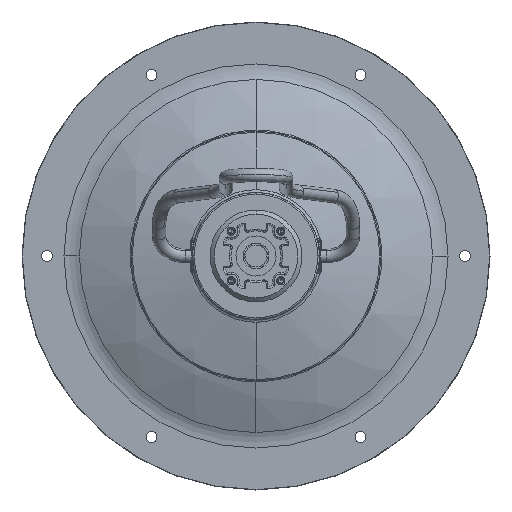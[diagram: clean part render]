
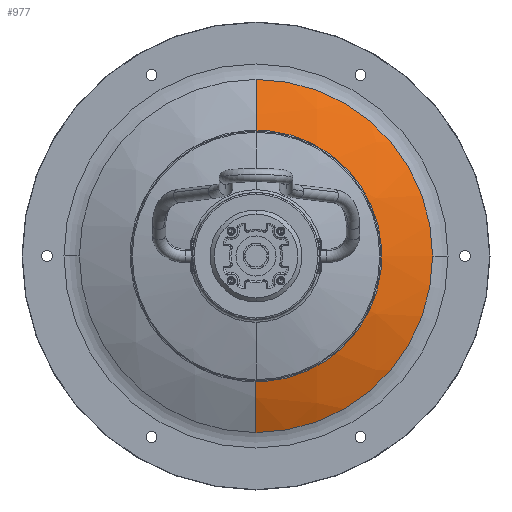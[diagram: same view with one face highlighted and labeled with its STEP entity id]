
A CAD part, front view. The second image highlights one B-rep face of the part: STEP entity #977.
In plain terms, the highlighted spherical face has radius 229 mm.
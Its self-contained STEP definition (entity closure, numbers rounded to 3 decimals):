
#384 = VERTEX_POINT ( 'NONE', #27801 ) ;
#527 = CIRCLE ( 'NONE', #4006, 40.352 ) ;
#794 = FACE_OUTER_BOUND ( 'NONE', #27525, .T. ) ;
#977 = ADVANCED_FACE ( 'NONE', ( #794 ), #18574, .T. ) ;
#995 = DIRECTION ( 'NONE',  ( 0., 0., -1. ) ) ;
#1651 = ORIENTED_EDGE ( 'NONE', *, *, #27460, .T. ) ;
#1808 = EDGE_CURVE ( 'NONE', #33135, #35547, #5233, .T. ) ;
#2389 = CARTESIAN_POINT ( 'NONE',  ( 105.65, -4.256, 0. ) ) ;
#3197 = CARTESIAN_POINT ( 'NONE',  ( 0., -26.5, -40.352 ) ) ;
#3296 = DIRECTION ( 'NONE',  ( 0., 0., -1. ) ) ;
#4006 = AXIS2_PLACEMENT_3D ( 'NONE', #26650, #22439, #8765 ) ;
#4284 = CARTESIAN_POINT ( 'NONE',  ( -40.352, -26.5, 0. ) ) ;
#4788 = CARTESIAN_POINT ( 'NONE',  ( 0., 198.917, 0. ) ) ;
#5233 = CIRCLE ( 'NONE', #29347, 229. ) ;
#5774 = AXIS2_PLACEMENT_3D ( 'NONE', #4788, #7304, #29601 ) ;
#6910 = ORIENTED_EDGE ( 'NONE', *, *, #35225, .F. ) ;
#7304 = DIRECTION ( 'NONE',  ( 0., 0., -1. ) ) ;
#8765 = DIRECTION ( 'NONE',  ( 0., 0., -1. ) ) ;
#11137 = CIRCLE ( 'NONE', #15163, 40.352 ) ;
#12131 = VERTEX_POINT ( 'NONE', #3197 ) ;
#13536 = CIRCLE ( 'NONE', #33698, 105.65 ) ;
#13716 = ORIENTED_EDGE ( 'NONE', *, *, #1808, .F. ) ;
#13848 = CARTESIAN_POINT ( 'NONE',  ( 0., -26.5, 0. ) ) ;
#15098 = AXIS2_PLACEMENT_3D ( 'NONE', #25371, #33669, #28079 ) ;
#15163 = AXIS2_PLACEMENT_3D ( 'NONE', #13848, #24855, #3296 ) ;
#15485 = DIRECTION ( 'NONE',  ( 0., 0., -1. ) ) ;
#16106 = CARTESIAN_POINT ( 'NONE',  ( 40.352, -26.5, 0. ) ) ;
#17975 = AXIS2_PLACEMENT_3D ( 'NONE', #25624, #25802, #995 ) ;
#18045 = EDGE_CURVE ( 'NONE', #33135, #384, #33546, .T. ) ;
#18270 = VERTEX_POINT ( 'NONE', #2389 ) ;
#18574 = SPHERICAL_SURFACE ( 'NONE', #5774, 229. ) ;
#18916 = ORIENTED_EDGE ( 'NONE', *, *, #18045, .T. ) ;
#20249 = EDGE_CURVE ( 'NONE', #12131, #32710, #11137, .T. ) ;
#21044 = ORIENTED_EDGE ( 'NONE', *, *, #22517, .T. ) ;
#21837 = CARTESIAN_POINT ( 'NONE',  ( 0., 198.917, 0. ) ) ;
#22439 = DIRECTION ( 'NONE',  ( 0., -1., 0. ) ) ;
#22517 = EDGE_CURVE ( 'NONE', #384, #18270, #13536, .T. ) ;
#23168 = CIRCLE ( 'NONE', #15098, 229. ) ;
#24855 = DIRECTION ( 'NONE',  ( 0., -1., 0. ) ) ;
#25371 = CARTESIAN_POINT ( 'NONE',  ( 0., 198.917, 0. ) ) ;
#25624 = CARTESIAN_POINT ( 'NONE',  ( 0., -4.256, 0. ) ) ;
#25802 = DIRECTION ( 'NONE',  ( 0., -1., 0. ) ) ;
#26650 = CARTESIAN_POINT ( 'NONE',  ( 0., -26.5, 0. ) ) ;
#27081 = DIRECTION ( 'NONE',  ( 0., 0., 1. ) ) ;
#27460 = EDGE_CURVE ( 'NONE', #18270, #32710, #23168, .T. ) ;
#27525 = EDGE_LOOP ( 'NONE', ( #18916, #21044, #1651, #33299, #6910, #13716 ) ) ;
#27801 = CARTESIAN_POINT ( 'NONE',  ( 0., -4.256, -105.65 ) ) ;
#28079 = DIRECTION ( 'NONE',  ( -1., 0., 0. ) ) ;
#28721 = DIRECTION ( 'NONE',  ( 0., -1., 0. ) ) ;
#29347 = AXIS2_PLACEMENT_3D ( 'NONE', #21837, #27081, #29791 ) ;
#29601 = DIRECTION ( 'NONE',  ( -1., 0., 0. ) ) ;
#29791 = DIRECTION ( 'NONE',  ( 1., 0., 0. ) ) ;
#32710 = VERTEX_POINT ( 'NONE', #16106 ) ;
#33135 = VERTEX_POINT ( 'NONE', #33376 ) ;
#33299 = ORIENTED_EDGE ( 'NONE', *, *, #20249, .F. ) ;
#33376 = CARTESIAN_POINT ( 'NONE',  ( -105.65, -4.256, 0. ) ) ;
#33546 = CIRCLE ( 'NONE', #17975, 105.65 ) ;
#33669 = DIRECTION ( 'NONE',  ( 0., 0., -1. ) ) ;
#33698 = AXIS2_PLACEMENT_3D ( 'NONE', #34134, #28721, #15485 ) ;
#34134 = CARTESIAN_POINT ( 'NONE',  ( 0., -4.256, 0. ) ) ;
#35225 = EDGE_CURVE ( 'NONE', #35547, #12131, #527, .T. ) ;
#35547 = VERTEX_POINT ( 'NONE', #4284 ) ;
